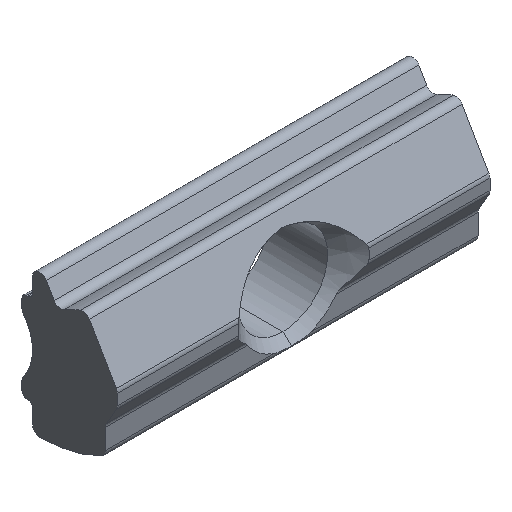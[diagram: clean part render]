
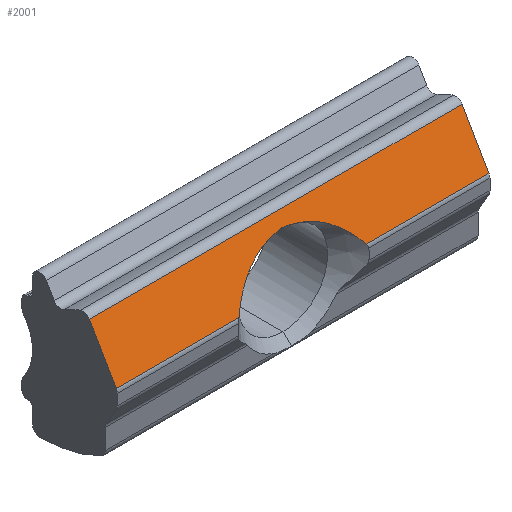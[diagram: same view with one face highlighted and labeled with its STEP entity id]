
A CAD part, isometric view. The second image highlights one B-rep face of the part: STEP entity #2001.
In plain terms, the highlighted planar face has unit normal (0, -0.866, 0.5).
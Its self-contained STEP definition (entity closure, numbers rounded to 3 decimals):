
#243=CARTESIAN_POINT('',(-9.608,2.033,11.234));
#244=VERTEX_POINT('',#243);
#254=CARTESIAN_POINT('',(15.392,2.033,11.234));
#255=VERTEX_POINT('',#254);
#256=CARTESIAN_POINT('',(-9.608,2.033,11.234));
#257=DIRECTION('',(1.0,0.0,0.0));
#258=VECTOR('',#257,25.0);
#259=LINE('',#256,#258);
#260=EDGE_CURVE('',#244,#255,#259,.T.);
#882=CARTESIAN_POINT('',(-9.608,0.229,8.109));
#883=VERTEX_POINT('',#882);
#891=CARTESIAN_POINT('',(-9.608,2.033,11.234));
#892=DIRECTION('',(0.0,-0.5,-0.866));
#893=VECTOR('',#892,3.608);
#894=LINE('',#891,#893);
#895=EDGE_CURVE('',#244,#883,#894,.T.);
#1354=CARTESIAN_POINT('',(2.892,1.61,10.5));
#1355=VERTEX_POINT('',#1354);
#1362=CARTESIAN_POINT('',(2.128,1.552,10.401));
#1363=VERTEX_POINT('',#1362);
#1364=CARTESIAN_POINT('',(2.892,1.61,10.5));
#1365=CARTESIAN_POINT('',(2.634,1.61,10.5));
#1366=CARTESIAN_POINT('',(2.375,1.59,10.466));
#1367=CARTESIAN_POINT('',(2.128,1.552,10.401));
#1368=QUASI_UNIFORM_CURVE('',3,(#1364,#1365,#1366,#1367),.UNSPECIFIED.,.F.,.U.);
#1369=EDGE_CURVE('',#1355,#1363,#1368,.T.);
#1491=CARTESIAN_POINT('',(-0.017,1.027,9.491));
#1492=VERTEX_POINT('',#1491);
#1493=CARTESIAN_POINT('',(2.128,1.552,10.401));
#1494=CARTESIAN_POINT('',(1.449,1.488,10.289));
#1495=CARTESIAN_POINT('',(0.808,1.337,10.028));
#1496=CARTESIAN_POINT('',(0.252,1.132,9.673));
#1497=CARTESIAN_POINT('',(0.16,1.099,9.615));
#1498=CARTESIAN_POINT('',(0.07,1.063,9.554));
#1499=CARTESIAN_POINT('',(-0.017,1.027,9.491));
#1500=B_SPLINE_CURVE_WITH_KNOTS('',3,(#1493,#1494,#1495,#1496,#1497,#1498,#1499),.UNSPECIFIED.,.F.,.U.,(4,3,4),(0.,0.858,1.0),.UNSPECIFIED.);
#1501=EDGE_CURVE('',#1363,#1492,#1500,.T.);
#1503=CARTESIAN_POINT('',(-1.388,0.229,8.109));
#1504=VERTEX_POINT('',#1503);
#1505=CARTESIAN_POINT('',(-0.017,1.027,9.491));
#1506=CARTESIAN_POINT('',(-0.558,0.801,9.1));
#1507=CARTESIAN_POINT('',(-1.013,0.528,8.626));
#1508=CARTESIAN_POINT('',(-1.388,0.229,8.109));
#1509=QUASI_UNIFORM_CURVE('',3,(#1505,#1506,#1507,#1508),.UNSPECIFIED.,.F.,.U.);
#1510=EDGE_CURVE('',#1492,#1504,#1509,.T.);
#1556=CARTESIAN_POINT('',(15.392,0.229,8.109));
#1557=VERTEX_POINT('',#1556);
#1565=CARTESIAN_POINT('',(7.172,0.229,8.109));
#1566=VERTEX_POINT('',#1565);
#1567=CARTESIAN_POINT('',(7.172,0.229,8.109));
#1568=DIRECTION('',(1.0,0.,0.));
#1569=VECTOR('',#1568,8.22);
#1570=LINE('',#1567,#1569);
#1571=EDGE_CURVE('',#1566,#1557,#1570,.T.);
#1788=CARTESIAN_POINT('',(15.392,0.229,8.109));
#1789=DIRECTION('',(0.0,0.5,0.866));
#1790=VECTOR('',#1789,3.608);
#1791=LINE('',#1788,#1790);
#1792=EDGE_CURVE('',#1557,#255,#1791,.T.);
#1962=CARTESIAN_POINT('',(15.392,1.131,9.672));
#1963=DIRECTION('',(0.0,-0.866,0.5));
#1964=DIRECTION('',(0.0,-0.5,-0.866));
#1965=AXIS2_PLACEMENT_3D('',#1962,#1963,#1964);
#1966=PLANE('',#1965);
#1967=ORIENTED_EDGE('',*,*,#1369,.F.);
#1968=CARTESIAN_POINT('',(3.657,1.552,10.401));
#1969=VERTEX_POINT('',#1968);
#1970=CARTESIAN_POINT('',(3.657,1.552,10.401));
#1971=CARTESIAN_POINT('',(3.409,1.59,10.466));
#1972=CARTESIAN_POINT('',(3.151,1.61,10.5));
#1973=CARTESIAN_POINT('',(2.892,1.61,10.5));
#1974=QUASI_UNIFORM_CURVE('',3,(#1970,#1971,#1972,#1973),.UNSPECIFIED.,.F.,.U.);
#1975=EDGE_CURVE('',#1969,#1355,#1974,.T.);
#1976=ORIENTED_EDGE('',*,*,#1975,.F.);
#1977=CARTESIAN_POINT('',(3.657,1.552,10.401));
#1978=CARTESIAN_POINT('',(4.353,1.486,10.286));
#1979=CARTESIAN_POINT('',(5.008,1.329,10.015));
#1980=CARTESIAN_POINT('',(5.574,1.117,9.647));
#1981=CARTESIAN_POINT('',(6.214,0.877,9.231));
#1982=CARTESIAN_POINT('',(6.746,0.568,8.697));
#1983=CARTESIAN_POINT('',(7.172,0.229,8.109));
#1984=B_SPLINE_CURVE_WITH_KNOTS('',3,(#1977,#1978,#1979,#1980,#1981,#1982,#1983),.UNSPECIFIED.,.F.,.U.,(4,3,4),(0.,0.18,0.383),.UNSPECIFIED.);
#1985=EDGE_CURVE('',#1969,#1566,#1984,.T.);
#1986=ORIENTED_EDGE('',*,*,#1985,.T.);
#1987=ORIENTED_EDGE('',*,*,#1571,.T.);
#1988=ORIENTED_EDGE('',*,*,#1792,.T.);
#1989=ORIENTED_EDGE('',*,*,#260,.F.);
#1990=ORIENTED_EDGE('',*,*,#895,.T.);
#1991=CARTESIAN_POINT('',(-9.608,0.229,8.109));
#1992=DIRECTION('',(1.0,0.,0.));
#1993=VECTOR('',#1992,8.22);
#1994=LINE('',#1991,#1993);
#1995=EDGE_CURVE('',#883,#1504,#1994,.T.);
#1996=ORIENTED_EDGE('',*,*,#1995,.T.);
#1997=ORIENTED_EDGE('',*,*,#1510,.F.);
#1998=ORIENTED_EDGE('',*,*,#1501,.F.);
#1999=EDGE_LOOP('',(#1967,#1976,#1986,#1987,#1988,#1989,#1990,#1996,#1997,#1998));
#2000=FACE_OUTER_BOUND('',#1999,.T.);
#2001=ADVANCED_FACE('',(#2000),#1966,.T.);
